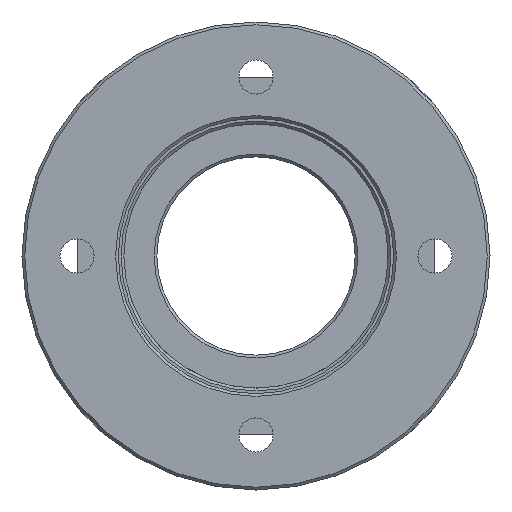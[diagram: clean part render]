
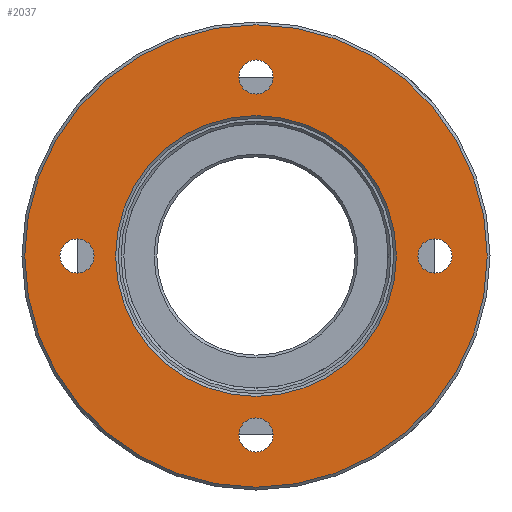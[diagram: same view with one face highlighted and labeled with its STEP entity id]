
A CAD part, left-side view. The second image highlights one B-rep face of the part: STEP entity #2037.
In plain terms, the highlighted planar face has unit normal (-1, 0, 0).
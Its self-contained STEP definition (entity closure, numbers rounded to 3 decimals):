
#488=CARTESIAN_POINT('',(0.,0.,35.6));
#489=VERTEX_POINT('',#488);
#490=CARTESIAN_POINT('',(0.,0.,32.5));
#491=DIRECTION('',(1.0,0.0,0.0));
#492=DIRECTION('',(0.0,0.0,1.0));
#493=AXIS2_PLACEMENT_3D('',#490,#491,#492);
#494=CIRCLE('',#493,3.1);
#495=EDGE_CURVE('',#489,#489,#494,.T.);
#516=CARTESIAN_POINT('',(0.,32.5,3.1));
#517=VERTEX_POINT('',#516);
#518=CARTESIAN_POINT('',(0.,32.5,0.));
#519=DIRECTION('',(1.0,0.0,0.0));
#520=DIRECTION('',(0.0,0.0,1.0));
#521=AXIS2_PLACEMENT_3D('',#518,#519,#520);
#522=CIRCLE('',#521,3.1);
#523=EDGE_CURVE('',#517,#517,#522,.T.);
#544=CARTESIAN_POINT('',(0.,0.,-29.4));
#545=VERTEX_POINT('',#544);
#546=CARTESIAN_POINT('',(0.,0.,-32.5));
#547=DIRECTION('',(1.0,0.0,0.0));
#548=DIRECTION('',(0.0,0.0,1.0));
#549=AXIS2_PLACEMENT_3D('',#546,#547,#548);
#550=CIRCLE('',#549,3.1);
#551=EDGE_CURVE('',#545,#545,#550,.T.);
#572=CARTESIAN_POINT('',(0.,-32.5,3.1));
#573=VERTEX_POINT('',#572);
#574=CARTESIAN_POINT('',(0.,-32.5,0.));
#575=DIRECTION('',(1.0,0.0,0.0));
#576=DIRECTION('',(0.0,0.0,1.0));
#577=AXIS2_PLACEMENT_3D('',#574,#575,#576);
#578=CIRCLE('',#577,3.1);
#579=EDGE_CURVE('',#573,#573,#578,.T.);
#1994=CARTESIAN_POINT('',(0.,0.,25.5));
#1995=VERTEX_POINT('',#1994);
#1996=CARTESIAN_POINT('',(0.,0.0,0.0));
#1997=DIRECTION('',(-1.0,0.0,0.0));
#1998=DIRECTION('',(0.0,0.0,-1.0));
#1999=AXIS2_PLACEMENT_3D('',#1996,#1997,#1998);
#2000=CIRCLE('',#1999,25.5);
#2001=EDGE_CURVE('',#1995,#1995,#2000,.T.);
#2006=CARTESIAN_POINT('',(0.,33.25,0.0));
#2007=DIRECTION('',(-1.0,0.0,0.0));
#2008=DIRECTION('',(0.0,0.0,1.0));
#2009=AXIS2_PLACEMENT_3D('',#2006,#2007,#2008);
#2010=PLANE('',#2009);
#2011=CARTESIAN_POINT('',(0.,42.0,0.));
#2012=VERTEX_POINT('',#2011);
#2013=CARTESIAN_POINT('',(0.,0.0,0.0));
#2014=DIRECTION('',(1.0,0.0,0.0));
#2015=DIRECTION('',(0.0,-1.0,0.0));
#2016=AXIS2_PLACEMENT_3D('',#2013,#2014,#2015);
#2017=CIRCLE('',#2016,42.0);
#2018=EDGE_CURVE('',#2012,#2012,#2017,.T.);
#2019=ORIENTED_EDGE('',*,*,#2018,.F.);
#2020=EDGE_LOOP('',(#2019));
#2021=FACE_OUTER_BOUND('',#2020,.T.);
#2022=ORIENTED_EDGE('',*,*,#495,.T.);
#2023=EDGE_LOOP('',(#2022));
#2024=FACE_BOUND('',#2023,.T.);
#2025=ORIENTED_EDGE('',*,*,#523,.T.);
#2026=EDGE_LOOP('',(#2025));
#2027=FACE_BOUND('',#2026,.T.);
#2028=ORIENTED_EDGE('',*,*,#551,.T.);
#2029=EDGE_LOOP('',(#2028));
#2030=FACE_BOUND('',#2029,.T.);
#2031=ORIENTED_EDGE('',*,*,#579,.T.);
#2032=EDGE_LOOP('',(#2031));
#2033=FACE_BOUND('',#2032,.T.);
#2034=ORIENTED_EDGE('',*,*,#2001,.F.);
#2035=EDGE_LOOP('',(#2034));
#2036=FACE_BOUND('',#2035,.T.);
#2037=ADVANCED_FACE('',(#2021,#2024,#2027,#2030,#2033,#2036),#2010,.T.);
